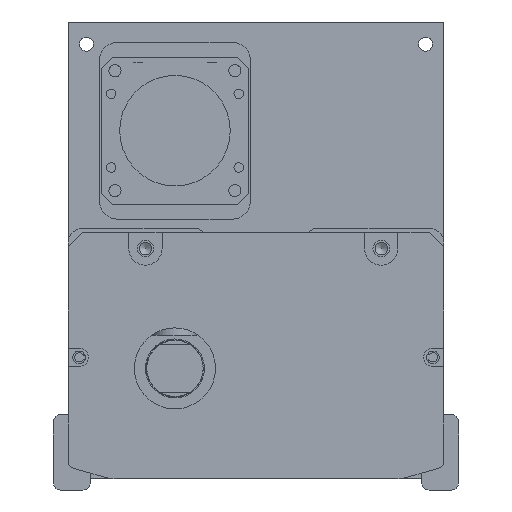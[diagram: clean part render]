
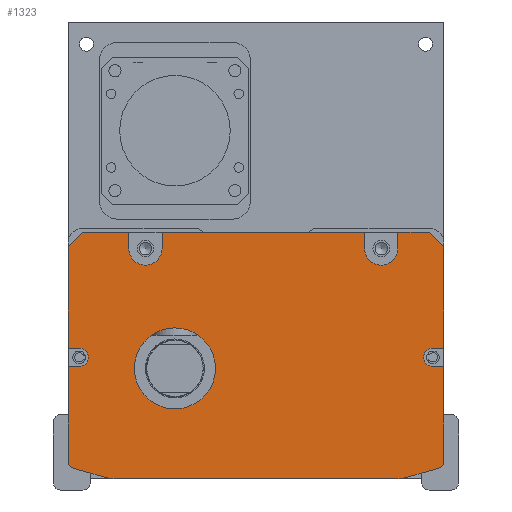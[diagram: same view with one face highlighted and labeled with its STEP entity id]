
A CAD part, front view. The second image highlights one B-rep face of the part: STEP entity #1323.
In plain terms, the highlighted planar face has unit normal (0, -1, 0).
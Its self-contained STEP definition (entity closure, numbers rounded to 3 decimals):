
#1323=ADVANCED_FACE('',(#3944,#3945),#2092,.F.);
#2092=PLANE('',#12837);
#2475=LINE('',#18355,#3237);
#2476=LINE('',#18358,#3238);
#2477=LINE('',#18360,#3239);
#2478=LINE('',#18362,#3240);
#2479=LINE('',#18366,#3241);
#2480=LINE('',#18368,#3242);
#2481=LINE('',#18370,#3243);
#2482=LINE('',#18374,#3244);
#2483=LINE('',#18376,#3245);
#2484=LINE('',#18378,#3246);
#2485=LINE('',#18380,#3247);
#2486=LINE('',#18382,#3248);
#2487=LINE('',#18386,#3249);
#2488=LINE('',#18388,#3250);
#2489=LINE('',#18392,#3251);
#2490=LINE('',#18396,#3252);
#2491=LINE('',#18400,#3253);
#2492=LINE('',#18404,#3254);
#2493=LINE('',#18406,#3255);
#2494=LINE('',#18410,#3256);
#3237=VECTOR('',#14536,1.);
#3238=VECTOR('',#14537,1.);
#3239=VECTOR('',#14538,1.);
#3240=VECTOR('',#14539,1.);
#3241=VECTOR('',#14542,1.);
#3242=VECTOR('',#14543,1.);
#3243=VECTOR('',#14544,1.);
#3244=VECTOR('',#14547,1.);
#3245=VECTOR('',#14548,1.);
#3246=VECTOR('',#14549,1.);
#3247=VECTOR('',#14550,1.);
#3248=VECTOR('',#14551,1.);
#3249=VECTOR('',#14554,1.);
#3250=VECTOR('',#14555,1.);
#3251=VECTOR('',#14558,1.);
#3252=VECTOR('',#14561,1.);
#3253=VECTOR('',#14564,1.);
#3254=VECTOR('',#14567,1.);
#3255=VECTOR('',#14568,1.);
#3256=VECTOR('',#14571,1.);
#3944=FACE_BOUND('',#4582,.T.);
#3945=FACE_BOUND('',#4583,.T.);
#4582=EDGE_LOOP('',(#5837,#5838,#5839,#5840,#5841,#5842,#5843,#5844,#5845,
#5846,#5847,#5848,#5849,#5850,#5851,#5852,#5853,#5854,#5855,#5856,#5857,
#5858,#5859,#5860,#5861,#5862,#5863,#5864));
#4583=EDGE_LOOP('',(#5865));
#5837=ORIENTED_EDGE('',*,*,#10468,.T.);
#5838=ORIENTED_EDGE('',*,*,#10469,.T.);
#5839=ORIENTED_EDGE('',*,*,#10470,.T.);
#5840=ORIENTED_EDGE('',*,*,#10471,.F.);
#5841=ORIENTED_EDGE('',*,*,#10472,.T.);
#5842=ORIENTED_EDGE('',*,*,#10473,.F.);
#5843=ORIENTED_EDGE('',*,*,#10474,.T.);
#5844=ORIENTED_EDGE('',*,*,#10475,.F.);
#5845=ORIENTED_EDGE('',*,*,#10476,.T.);
#5846=ORIENTED_EDGE('',*,*,#10477,.F.);
#5847=ORIENTED_EDGE('',*,*,#10478,.T.);
#5848=ORIENTED_EDGE('',*,*,#10479,.T.);
#5849=ORIENTED_EDGE('',*,*,#10480,.T.);
#5850=ORIENTED_EDGE('',*,*,#10481,.T.);
#5851=ORIENTED_EDGE('',*,*,#10482,.T.);
#5852=ORIENTED_EDGE('',*,*,#10483,.T.);
#5853=ORIENTED_EDGE('',*,*,#10484,.T.);
#5854=ORIENTED_EDGE('',*,*,#10485,.T.);
#5855=ORIENTED_EDGE('',*,*,#10486,.T.);
#5856=ORIENTED_EDGE('',*,*,#10487,.T.);
#5857=ORIENTED_EDGE('',*,*,#10488,.T.);
#5858=ORIENTED_EDGE('',*,*,#10489,.T.);
#5859=ORIENTED_EDGE('',*,*,#10490,.T.);
#5860=ORIENTED_EDGE('',*,*,#10491,.T.);
#5861=ORIENTED_EDGE('',*,*,#10492,.T.);
#5862=ORIENTED_EDGE('',*,*,#10493,.T.);
#5863=ORIENTED_EDGE('',*,*,#10494,.T.);
#5864=ORIENTED_EDGE('',*,*,#10495,.T.);
#5865=ORIENTED_EDGE('',*,*,#10496,.T.);
#9244=VERTEX_POINT('',#18356);
#9245=VERTEX_POINT('',#18357);
#9246=VERTEX_POINT('',#18359);
#9247=VERTEX_POINT('',#18361);
#9248=VERTEX_POINT('',#18363);
#9249=VERTEX_POINT('',#18365);
#9250=VERTEX_POINT('',#18367);
#9251=VERTEX_POINT('',#18369);
#9252=VERTEX_POINT('',#18371);
#9253=VERTEX_POINT('',#18373);
#9254=VERTEX_POINT('',#18375);
#9255=VERTEX_POINT('',#18377);
#9256=VERTEX_POINT('',#18379);
#9257=VERTEX_POINT('',#18381);
#9258=VERTEX_POINT('',#18383);
#9259=VERTEX_POINT('',#18385);
#9260=VERTEX_POINT('',#18387);
#9261=VERTEX_POINT('',#18389);
#9262=VERTEX_POINT('',#18391);
#9263=VERTEX_POINT('',#18393);
#9264=VERTEX_POINT('',#18395);
#9265=VERTEX_POINT('',#18397);
#9266=VERTEX_POINT('',#18399);
#9267=VERTEX_POINT('',#18401);
#9268=VERTEX_POINT('',#18403);
#9269=VERTEX_POINT('',#18405);
#9270=VERTEX_POINT('',#18407);
#9271=VERTEX_POINT('',#18409);
#9272=VERTEX_POINT('',#18412);
#10468=EDGE_CURVE('',#9244,#9245,#2475,.T.);
#10469=EDGE_CURVE('',#9245,#9246,#2476,.T.);
#10470=EDGE_CURVE('',#9246,#9247,#2477,.T.);
#10471=EDGE_CURVE('',#9248,#9247,#2478,.T.);
#10472=EDGE_CURVE('',#9248,#9249,#12077,.T.);
#10473=EDGE_CURVE('',#9250,#9249,#2479,.T.);
#10474=EDGE_CURVE('',#9250,#9251,#2480,.T.);
#10475=EDGE_CURVE('',#9252,#9251,#2481,.T.);
#10476=EDGE_CURVE('',#9252,#9253,#12078,.T.);
#10477=EDGE_CURVE('',#9254,#9253,#2482,.T.);
#10478=EDGE_CURVE('',#9254,#9255,#2483,.T.);
#10479=EDGE_CURVE('',#9255,#9256,#2484,.T.);
#10480=EDGE_CURVE('',#9256,#9257,#2485,.T.);
#10481=EDGE_CURVE('',#9257,#9258,#2486,.T.);
#10482=EDGE_CURVE('',#9258,#9259,#12079,.T.);
#10483=EDGE_CURVE('',#9259,#9260,#2487,.T.);
#10484=EDGE_CURVE('',#9260,#9261,#2488,.T.);
#10485=EDGE_CURVE('',#9261,#9262,#12080,.T.);
#10486=EDGE_CURVE('',#9262,#9263,#2489,.T.);
#10487=EDGE_CURVE('',#9263,#9264,#12081,.T.);
#10488=EDGE_CURVE('',#9264,#9265,#2490,.T.);
#10489=EDGE_CURVE('',#9265,#9266,#12082,.T.);
#10490=EDGE_CURVE('',#9266,#9267,#2491,.T.);
#10491=EDGE_CURVE('',#9267,#9268,#12083,.T.);
#10492=EDGE_CURVE('',#9268,#9269,#2492,.T.);
#10493=EDGE_CURVE('',#9269,#9270,#2493,.T.);
#10494=EDGE_CURVE('',#9270,#9271,#12084,.T.);
#10495=EDGE_CURVE('',#9271,#9244,#2494,.T.);
#10496=EDGE_CURVE('',#9272,#9272,#12085,.T.);
#12077=CIRCLE('',#12828,4.5);
#12078=CIRCLE('',#12829,4.5);
#12079=CIRCLE('',#12830,2.5);
#12080=CIRCLE('',#12831,2.);
#12081=CIRCLE('',#12832,10.);
#12082=CIRCLE('',#12833,10.);
#12083=CIRCLE('',#12834,2.);
#12084=CIRCLE('',#12835,2.5);
#12085=CIRCLE('',#12836,11.);
#12828=AXIS2_PLACEMENT_3D('',#18364,#14540,#14541);
#12829=AXIS2_PLACEMENT_3D('',#18372,#14545,#14546);
#12830=AXIS2_PLACEMENT_3D('',#18384,#14552,#14553);
#12831=AXIS2_PLACEMENT_3D('',#18390,#14556,#14557);
#12832=AXIS2_PLACEMENT_3D('',#18394,#14559,#14560);
#12833=AXIS2_PLACEMENT_3D('',#18398,#14562,#14563);
#12834=AXIS2_PLACEMENT_3D('',#18402,#14565,#14566);
#12835=AXIS2_PLACEMENT_3D('',#18408,#14569,#14570);
#12836=AXIS2_PLACEMENT_3D('',#18411,#14572,#14573);
#12837=AXIS2_PLACEMENT_3D('',#18413,#14574,#14575);
#14536=DIRECTION('',(0.,0.,1.));
#14537=DIRECTION('',(-0.707,0.,0.707));
#14538=DIRECTION('',(-1.,0.,0.));
#14539=DIRECTION('',(0.,0.,1.));
#14540=DIRECTION('',(0.,1.,0.));
#14541=DIRECTION('',(0.,0.,1.));
#14542=DIRECTION('',(0.,0.,-1.));
#14543=DIRECTION('',(-1.,0.,0.));
#14544=DIRECTION('',(0.,0.,1.));
#14545=DIRECTION('',(0.,1.,0.));
#14546=DIRECTION('',(0.,0.,1.));
#14547=DIRECTION('',(0.,0.,-1.));
#14548=DIRECTION('',(-1.,0.,0.));
#14549=DIRECTION('',(-0.707,0.,-0.707));
#14550=DIRECTION('',(0.,0.,-1.));
#14551=DIRECTION('',(1.,0.,0.));
#14552=DIRECTION('',(0.,1.,0.));
#14553=DIRECTION('',(0.,0.,1.));
#14554=DIRECTION('',(-1.,0.,0.));
#14555=DIRECTION('',(0.,0.,-1.));
#14556=DIRECTION('',(0.,-1.,0.));
#14557=DIRECTION('',(0.,0.,1.));
#14558=DIRECTION('',(0.963,0.,-0.269));
#14559=DIRECTION('',(0.,-1.,0.));
#14560=DIRECTION('',(0.,0.,1.));
#14561=DIRECTION('',(1.,0.,0.));
#14562=DIRECTION('',(0.,-1.,0.));
#14563=DIRECTION('',(0.,0.,-1.));
#14564=DIRECTION('',(0.963,0.,0.269));
#14565=DIRECTION('',(0.,-1.,0.));
#14566=DIRECTION('',(0.,0.,-1.));
#14567=DIRECTION('',(0.,0.,1.));
#14568=DIRECTION('',(-1.,0.,0.));
#14569=DIRECTION('',(0.,1.,0.));
#14570=DIRECTION('',(0.,0.,1.));
#14571=DIRECTION('',(1.,0.,0.));
#14572=DIRECTION('',(0.,1.,0.));
#14573=DIRECTION('',(0.,0.,1.));
#14574=DIRECTION('',(0.,1.,0.));
#14575=DIRECTION('',(-1.,0.,0.));
#18355=CARTESIAN_POINT('',(47.808,-317.5,-1.));
#18356=CARTESIAN_POINT('',(47.808,-317.5,-32.5));
#18357=CARTESIAN_POINT('',(47.808,-317.5,-5.));
#18358=CARTESIAN_POINT('',(43.808,-317.5,-1.));
#18359=CARTESIAN_POINT('',(43.808,-317.5,-1.));
#18360=CARTESIAN_POINT('',(-3.192,-317.5,-1.));
#18361=CARTESIAN_POINT('',(35.308,-317.5,-1.));
#18362=CARTESIAN_POINT('',(35.308,-317.5,-1.));
#18363=CARTESIAN_POINT('',(35.308,-317.5,-5.5));
#18364=CARTESIAN_POINT('',(30.808,-317.5,-5.5));
#18365=CARTESIAN_POINT('',(26.308,-317.5,-5.5));
#18366=CARTESIAN_POINT('',(26.308,-317.5,-1.));
#18367=CARTESIAN_POINT('',(26.308,-317.5,-1.));
#18368=CARTESIAN_POINT('',(-54.192,-317.5,-1.));
#18369=CARTESIAN_POINT('',(-28.692,-317.5,-1.));
#18370=CARTESIAN_POINT('',(-28.692,-317.5,-3.5));
#18371=CARTESIAN_POINT('',(-28.692,-317.5,-5.5));
#18372=CARTESIAN_POINT('',(-33.192,-317.5,-5.5));
#18373=CARTESIAN_POINT('',(-37.692,-317.5,-5.5));
#18374=CARTESIAN_POINT('',(-37.692,-317.5,-1.));
#18375=CARTESIAN_POINT('',(-37.692,-317.5,-1.));
#18376=CARTESIAN_POINT('',(-54.192,-317.5,-1.));
#18377=CARTESIAN_POINT('',(-50.192,-317.5,-1.));
#18378=CARTESIAN_POINT('',(-54.192,-317.5,-5.));
#18379=CARTESIAN_POINT('',(-54.192,-317.5,-5.));
#18380=CARTESIAN_POINT('',(-54.192,-317.5,-62.));
#18381=CARTESIAN_POINT('',(-54.192,-317.5,-32.5));
#18382=CARTESIAN_POINT('',(-3.192,-317.5,-32.5));
#18383=CARTESIAN_POINT('',(-51.192,-317.5,-32.5));
#18384=CARTESIAN_POINT('',(-51.192,-317.5,-35.));
#18385=CARTESIAN_POINT('',(-51.192,-317.5,-37.5));
#18386=CARTESIAN_POINT('',(-3.192,-317.5,-37.5));
#18387=CARTESIAN_POINT('',(-54.192,-317.5,-37.5));
#18388=CARTESIAN_POINT('',(-54.192,-317.5,-62.));
#18389=CARTESIAN_POINT('',(-54.192,-317.5,-63.212));
#18390=CARTESIAN_POINT('',(-52.192,-317.5,-63.212));
#18391=CARTESIAN_POINT('',(-52.731,-317.5,-65.138));
#18392=CARTESIAN_POINT('',(-55.807,-317.5,-64.279));
#18393=CARTESIAN_POINT('',(-43.809,-317.5,-67.631));
#18394=CARTESIAN_POINT('',(-41.118,-317.5,-58.));
#18395=CARTESIAN_POINT('',(-41.118,-317.5,-68.));
#18396=CARTESIAN_POINT('',(-54.692,-317.5,-68.));
#18397=CARTESIAN_POINT('',(34.733,-317.5,-68.));
#18398=CARTESIAN_POINT('',(34.733,-317.5,-58.));
#18399=CARTESIAN_POINT('',(37.424,-317.5,-67.631));
#18400=CARTESIAN_POINT('',(49.422,-317.5,-64.279));
#18401=CARTESIAN_POINT('',(46.346,-317.5,-65.138));
#18402=CARTESIAN_POINT('',(45.808,-317.5,-63.212));
#18403=CARTESIAN_POINT('',(47.808,-317.5,-63.212));
#18404=CARTESIAN_POINT('',(47.808,-317.5,-1.));
#18405=CARTESIAN_POINT('',(47.808,-317.5,-37.5));
#18406=CARTESIAN_POINT('',(-3.192,-317.5,-37.5));
#18407=CARTESIAN_POINT('',(44.808,-317.5,-37.5));
#18408=CARTESIAN_POINT('',(44.808,-317.5,-35.));
#18409=CARTESIAN_POINT('',(44.808,-317.5,-32.5));
#18410=CARTESIAN_POINT('',(-3.192,-317.5,-32.5));
#18411=CARTESIAN_POINT('',(-25.192,-317.5,-38.));
#18412=CARTESIAN_POINT('',(-25.192,-317.5,-27.));
#18413=CARTESIAN_POINT('',(-3.192,-317.5,-1.));
